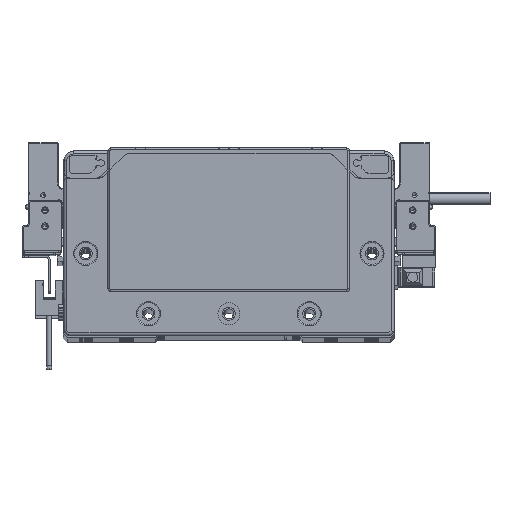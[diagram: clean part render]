
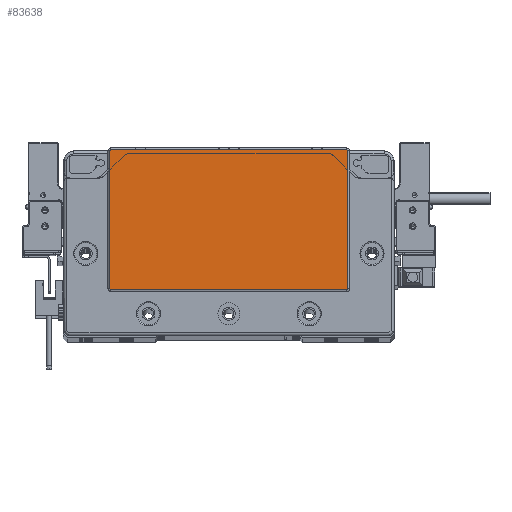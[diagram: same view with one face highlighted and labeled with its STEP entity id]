
A CAD part, top view. The second image highlights one B-rep face of the part: STEP entity #83638.
In plain terms, the highlighted planar face has unit normal (0, 0, 1) as drawn and (0, 0, -1) by its records, which use the part's own axes.
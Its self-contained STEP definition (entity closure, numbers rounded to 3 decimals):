
#813 = ORIENTED_EDGE ( 'NONE', *, *, #36458, .T. ) ;
#1453 = EDGE_LOOP ( 'NONE', ( #89727, #813, #65826, #19005, #88806, #20611, #63964, #40169 ) ) ;
#1990 = DIRECTION ( 'NONE',  ( 1., 0., 0. ) ) ;
#5139 = VERTEX_POINT ( 'NONE', #92686 ) ;
#11521 = CIRCLE ( 'NONE', #16325, 0.5 ) ;
#11807 = DIRECTION ( 'NONE',  ( 0., -1., 0. ) ) ;
#11915 = CARTESIAN_POINT ( 'NONE',  ( -58.75, 45.3, -2. ) ) ;
#14082 = AXIS2_PLACEMENT_3D ( 'NONE', #70232, #63246, #40643 ) ;
#15779 = EDGE_CURVE ( 'NONE', #5139, #23017, #46174, .T. ) ;
#16277 = LINE ( 'NONE', #83029, #98689 ) ;
#16325 = AXIS2_PLACEMENT_3D ( 'NONE', #26338, #87052, #89054 ) ;
#16736 = FACE_OUTER_BOUND ( 'NONE', #1453, .T. ) ;
#18839 = DIRECTION ( 'NONE',  ( 0., 1., 0. ) ) ;
#19005 = ORIENTED_EDGE ( 'NONE', *, *, #74121, .T. ) ;
#19412 = EDGE_CURVE ( 'NONE', #43741, #27326, #16277, .T. ) ;
#20611 = ORIENTED_EDGE ( 'NONE', *, *, #59746, .T. ) ;
#23017 = VERTEX_POINT ( 'NONE', #47554 ) ;
#23618 = CARTESIAN_POINT ( 'NONE',  ( 58.75, 45.8, -2. ) ) ;
#25540 = VERTEX_POINT ( 'NONE', #70010 ) ;
#25909 = CARTESIAN_POINT ( 'NONE',  ( 59.25, -23.3, -2. ) ) ;
#26338 = CARTESIAN_POINT ( 'NONE',  ( -58.75, -23.3, -2. ) ) ;
#26992 = DIRECTION ( 'NONE',  ( -1., 0., 0. ) ) ;
#27326 = VERTEX_POINT ( 'NONE', #80923 ) ;
#29129 = CIRCLE ( 'NONE', #98043, 0.5 ) ;
#30058 = CIRCLE ( 'NONE', #68478, 0.5 ) ;
#33453 = AXIS2_PLACEMENT_3D ( 'NONE', #56365, #79391, #54377 ) ;
#36458 = EDGE_CURVE ( 'NONE', #25540, #43741, #29129, .T. ) ;
#36751 = DIRECTION ( 'NONE',  ( 0., 0., -1. ) ) ;
#40169 = ORIENTED_EDGE ( 'NONE', *, *, #54302, .T. ) ;
#40643 = DIRECTION ( 'NONE',  ( -1., 0., 0. ) ) ;
#42922 = LINE ( 'NONE', #25909, #78011 ) ;
#43465 = CARTESIAN_POINT ( 'NONE',  ( -59.25, -23.3, -2. ) ) ;
#43741 = VERTEX_POINT ( 'NONE', #64117 ) ;
#46174 = LINE ( 'NONE', #23618, #54790 ) ;
#46371 = DIRECTION ( 'NONE',  ( -1., 0., 0. ) ) ;
#47385 = EDGE_CURVE ( 'NONE', #94036, #96973, #73979, .T. ) ;
#47554 = CARTESIAN_POINT ( 'NONE',  ( 58.75, 45.8, -2. ) ) ;
#51823 = CARTESIAN_POINT ( 'NONE',  ( 58.75, -23.3, -2. ) ) ;
#52152 = EDGE_CURVE ( 'NONE', #69081, #25540, #42922, .T. ) ;
#54302 = EDGE_CURVE ( 'NONE', #23017, #69081, #90954, .T. ) ;
#54377 = DIRECTION ( 'NONE',  ( -1., 0., 0. ) ) ;
#54790 = VECTOR ( 'NONE', #1990, 1000. ) ;
#56365 = CARTESIAN_POINT ( 'NONE',  ( 0., 0., -2. ) ) ;
#56623 = DIRECTION ( 'NONE',  ( 0., 0., -1. ) ) ;
#59746 = EDGE_CURVE ( 'NONE', #96973, #5139, #30058, .T. ) ;
#60024 = CARTESIAN_POINT ( 'NONE',  ( 59.25, 45.3, -2. ) ) ;
#63246 = DIRECTION ( 'NONE',  ( 0., 0., -1. ) ) ;
#63964 = ORIENTED_EDGE ( 'NONE', *, *, #15779, .T. ) ;
#64117 = CARTESIAN_POINT ( 'NONE',  ( 58.75, -23.8, -2. ) ) ;
#64479 = CARTESIAN_POINT ( 'NONE',  ( -59.25, 45.3, -2. ) ) ;
#65826 = ORIENTED_EDGE ( 'NONE', *, *, #19412, .T. ) ;
#68478 = AXIS2_PLACEMENT_3D ( 'NONE', #11915, #56623, #26992 ) ;
#69081 = VERTEX_POINT ( 'NONE', #60024 ) ;
#70010 = CARTESIAN_POINT ( 'NONE',  ( 59.25, -23.3, -2. ) ) ;
#70232 = CARTESIAN_POINT ( 'NONE',  ( 58.75, 45.3, -2. ) ) ;
#73979 = LINE ( 'NONE', #64479, #94827 ) ;
#74121 = EDGE_CURVE ( 'NONE', #27326, #94036, #11521, .T. ) ;
#78011 = VECTOR ( 'NONE', #11807, 1000. ) ;
#79391 = DIRECTION ( 'NONE',  ( 0., 0., -1. ) ) ;
#80923 = CARTESIAN_POINT ( 'NONE',  ( -58.75, -23.8, -2. ) ) ;
#83029 = CARTESIAN_POINT ( 'NONE',  ( -58.75, -23.8, -2. ) ) ;
#83638 = ADVANCED_FACE ( 'NONE', ( #16736 ), #94478, .T. ) ;
#87052 = DIRECTION ( 'NONE',  ( 0., 0., -1. ) ) ;
#87940 = CARTESIAN_POINT ( 'NONE',  ( -59.25, 45.3, -2. ) ) ;
#88806 = ORIENTED_EDGE ( 'NONE', *, *, #47385, .T. ) ;
#89054 = DIRECTION ( 'NONE',  ( -1., 0., 0. ) ) ;
#89727 = ORIENTED_EDGE ( 'NONE', *, *, #52152, .T. ) ;
#89974 = DIRECTION ( 'NONE',  ( -1., 0., 0. ) ) ;
#90954 = CIRCLE ( 'NONE', #14082, 0.5 ) ;
#92686 = CARTESIAN_POINT ( 'NONE',  ( -58.75, 45.8, -2. ) ) ;
#94036 = VERTEX_POINT ( 'NONE', #43465 ) ;
#94478 = PLANE ( 'NONE',  #33453 ) ;
#94827 = VECTOR ( 'NONE', #18839, 1000. ) ;
#96973 = VERTEX_POINT ( 'NONE', #87940 ) ;
#98043 = AXIS2_PLACEMENT_3D ( 'NONE', #51823, #36751, #89974 ) ;
#98689 = VECTOR ( 'NONE', #46371, 1000. ) ;
